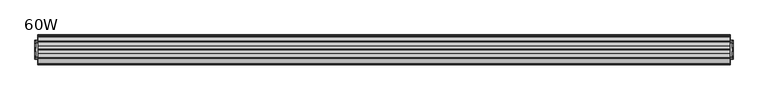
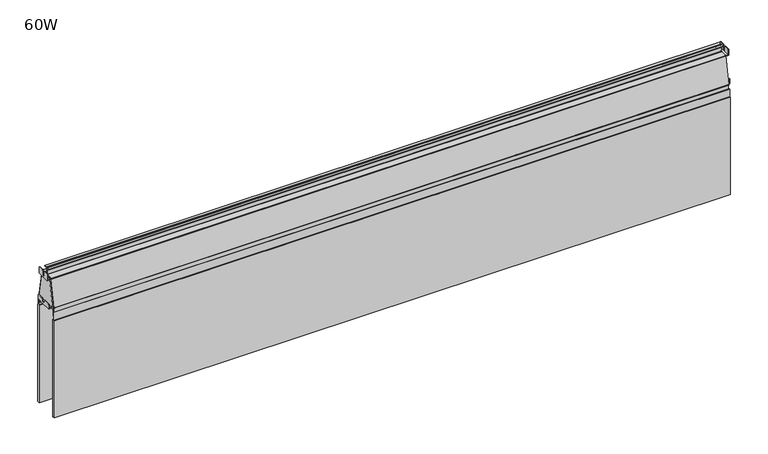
"""IFC4 building model written with IfcOpenShell, lengths in millimetres: furniture geometry, Steelcase Turnstone - Bivi - Accessories - High Sit Bracket with Modesty Panel : 60W."""

from ifc_helpers import new_model, si_unit, point, frame, frame_2d, origin, place, context, project, spatial, polyline, circle_curve, trimmed, segment, composite_curve, outline, extrude, source, transform, mapped, element, save
from ifc_brep_helpers import plane_surface, cylinder_surface, revolved_surface, advanced_brep


def furniture_60w_cce648a8(model_context):
    return source(origin(), model_context, "Body", "SolidModel", [
        extrude(outline(polyline([(1476.756, 62.4245382), (1476.756, 102.4290731), (1481.1753142, 102.4290731), (1481.1753142, 62.4245382), (1476.756, 62.4245382)])), frame((0.0, 0.0, 971.7621964), z_axis=(0.0, 0.0, 1.0), x_axis=(1.0, 0.0, 0.0)), (0.0, 0.0, 1.0), 2.2606178),
        extrude(outline(polyline([(1476.756, 67.9265279), (1476.756, 96.8235489), (1481.1753142, 96.8235489), (1481.1753142, 67.9265279), (1476.756, 67.9265279)])), frame((0.0, 0.0, 1033.6165755), z_axis=(0.0, 0.0, 1.0), x_axis=(1.0, 0.0, 0.0)), (0.0, 0.0, 1.0), 1.7477706),
        extrude(outline(composite_curve([segment(polyline([(67.9265279, 1033.6165755), (67.9265279, 1047.4581981)]), True, "CONTINUOUS"), segment(trimmed(circle_curve(frame_2d((68.8135699, 1047.4581981)), 0.887042), [point((67.9265279, 1047.4581981))], [point((68.8135699, 1048.3452401))], False, "CARTESIAN"), True, "CONTINUOUS"), segment(polyline([(68.8135699, 1048.3452401), (78.2610567, 1048.3452401)]), True, "CONTINUOUS"), segment(trimmed(circle_curve(frame_2d((78.2610567, 1047.1627838)), 1.1824563), [point((78.2610567, 1048.3452401))], [point((79.443513, 1047.1627838))], False, "CARTESIAN"), True, "CONTINUOUS"), segment(polyline([(79.443513, 1047.1627838), (79.443513, 1035.3644915), (85.4277852, 1035.3644915), (85.4277852, 1047.1882087)]), True, "CONTINUOUS"), segment(trimmed(circle_curve(frame_2d((86.5848166, 1047.1882087)), 1.1570313), [point((85.4277852, 1047.1882087))], [point((86.5848166, 1048.3452401))], False, "CARTESIAN"), True, "CONTINUOUS"), segment(polyline([(86.5848166, 1048.3452401), (95.8530462, 1048.3452401)]), True, "CONTINUOUS"), segment(trimmed(circle_curve(frame_2d((95.8530462, 1047.2712029)), 1.0740372), [point((95.8530462, 1048.3452401))], [point((96.9270833, 1047.2712029))], False, "CARTESIAN"), True, "CONTINUOUS"), segment(polyline([(96.9270833, 1047.2712029), (96.9270833, 1033.6165755), (67.9265279, 1033.6165755)]), True, "CONTINUOUS")], self_intersect=False)), frame((1481.1753142, 0.0, 0.0), z_axis=(1.0, 0.0, 0.0), x_axis=(0.0, 1.0, 0.0)), (0.0, 0.0, 1.0), 1.4999084),
        extrude(outline(composite_curve([segment(trimmed(circle_curve(frame_2d((76.0547241, 979.9142284)), 1.9270039), [point((76.0547241, 981.8412323))], [point((77.9817281, 979.9142284))], False, "CARTESIAN"), True, "CONTINUOUS"), segment(polyline([(77.9817281, 979.9142284), (77.9817281, 974.7655741), (86.8718831, 974.7655741), (86.8718831, 980.0617922)]), True, "CONTINUOUS"), segment(trimmed(circle_curve(frame_2d((88.6513232, 980.0617922)), 1.7794401), [point((86.8718831, 980.0617922))], [point((88.6513232, 981.8412323))], False, "CARTESIAN"), True, "CONTINUOUS"), segment(polyline([(88.6513232, 981.8412323), (100.3925404, 981.8412323)]), True, "CONTINUOUS"), segment(trimmed(circle_curve(frame_2d((100.3925404, 979.8046996)), 2.0365327), [point((100.3925404, 981.8412323))], [point((102.4290731, 979.8046996))], False, "CARTESIAN"), True, "CONTINUOUS"), segment(polyline([(102.4290731, 979.8046996), (102.4290731, 971.7621964), (82.4398102, 971.7621964), (62.4245382, 971.7621964), (62.4245382, 980.0326664)]), True, "CONTINUOUS"), segment(trimmed(circle_curve(frame_2d((64.233104, 980.0326664)), 1.8085659), [point((62.4245382, 980.0326664))], [point((64.233104, 981.8412323))], False, "CARTESIAN"), True, "CONTINUOUS"), segment(polyline([(64.233104, 981.8412323), (76.0547241, 981.8412323)]), True, "CONTINUOUS")], self_intersect=False)), frame((1481.1753142, 0.0, 0.0), z_axis=(1.0, 0.0, 0.0), x_axis=(0.0, 1.0, 0.0)), (0.0, 0.0, 1.0), 1.4999084),
        extrude(outline(polyline([(0.0, 62.4245382), (-4.4193142, 62.4245382), (-4.4193142, 102.4290731), (0.0, 102.4290731), (0.0, 62.4245382)])), frame((0.0, 0.0, 971.7621964), z_axis=(0.0, 0.0, 1.0), x_axis=(1.0, 0.0, 0.0)), (0.0, 0.0, 1.0), 2.2606178),
        extrude(outline(polyline([(0.0, 67.9265279), (-4.4193142, 67.9265279), (-4.4193142, 96.8235489), (0.0, 96.8235489), (0.0, 67.9265279)])), frame((0.0, 0.0, 1033.6165755), z_axis=(0.0, 0.0, 1.0), x_axis=(1.0, 0.0, 0.0)), (0.0, 0.0, 1.0), 1.7477706),
        extrude(outline(composite_curve([segment(polyline([(67.9265279, 1033.6165755), (67.9265279, 1047.4581981)]), True, "CONTINUOUS"), segment(trimmed(circle_curve(frame_2d((68.8135699, 1047.4581981)), 0.887042), [point((67.9265279, 1047.4581981))], [point((68.8135699, 1048.3452401))], False, "CARTESIAN"), True, "CONTINUOUS"), segment(polyline([(68.8135699, 1048.3452401), (78.2610567, 1048.3452401)]), True, "CONTINUOUS"), segment(trimmed(circle_curve(frame_2d((78.2610567, 1047.1627838)), 1.1824563), [point((78.2610567, 1048.3452401))], [point((79.443513, 1047.1627838))], False, "CARTESIAN"), True, "CONTINUOUS"), segment(polyline([(79.443513, 1047.1627838), (79.443513, 1035.3644915), (85.4277852, 1035.3644915), (85.4277852, 1047.1882087)]), True, "CONTINUOUS"), segment(trimmed(circle_curve(frame_2d((86.5848166, 1047.1882087)), 1.1570313), [point((85.4277852, 1047.1882087))], [point((86.5848166, 1048.3452401))], False, "CARTESIAN"), True, "CONTINUOUS"), segment(polyline([(86.5848166, 1048.3452401), (95.8530462, 1048.3452401)]), True, "CONTINUOUS"), segment(trimmed(circle_curve(frame_2d((95.8530462, 1047.2712029)), 1.0740372), [point((95.8530462, 1048.3452401))], [point((96.9270833, 1047.2712029))], False, "CARTESIAN"), True, "CONTINUOUS"), segment(polyline([(96.9270833, 1047.2712029), (96.9270833, 1033.6165755), (67.9265279, 1033.6165755)]), True, "CONTINUOUS")], self_intersect=False)), frame((-5.9192227, 0.0, 0.0), z_axis=(1.0, 0.0, 0.0), x_axis=(0.0, 1.0, 0.0)), (0.0, 0.0, 1.0), 1.4999084),
        extrude(outline(composite_curve([segment(trimmed(circle_curve(frame_2d((76.0547241, 979.9142284)), 1.9270039), [point((76.0547241, 981.8412323))], [point((77.9817281, 979.9142284))], False, "CARTESIAN"), True, "CONTINUOUS"), segment(polyline([(77.9817281, 979.9142284), (77.9817281, 974.7655741), (86.8718831, 974.7655741), (86.8718831, 980.0617922)]), True, "CONTINUOUS"), segment(trimmed(circle_curve(frame_2d((88.6513232, 980.0617922)), 1.7794401), [point((86.8718831, 980.0617922))], [point((88.6513232, 981.8412323))], False, "CARTESIAN"), True, "CONTINUOUS"), segment(polyline([(88.6513232, 981.8412323), (100.3925404, 981.8412323)]), True, "CONTINUOUS"), segment(trimmed(circle_curve(frame_2d((100.3925404, 979.8046996)), 2.0365327), [point((100.3925404, 981.8412323))], [point((102.4290731, 979.8046996))], False, "CARTESIAN"), True, "CONTINUOUS"), segment(polyline([(102.4290731, 979.8046996), (102.4290731, 971.7621964), (82.4398102, 971.7621964), (62.4245382, 971.7621964), (62.4245382, 980.0326664)]), True, "CONTINUOUS"), segment(trimmed(circle_curve(frame_2d((64.233104, 980.0326664)), 1.8085659), [point((62.4245382, 980.0326664))], [point((64.233104, 981.8412323))], False, "CARTESIAN"), True, "CONTINUOUS"), segment(polyline([(64.233104, 981.8412323), (76.0547241, 981.8412323)]), True, "CONTINUOUS")], self_intersect=False)), frame((-5.9192227, 0.0, 0.0), z_axis=(1.0, 0.0, 0.0), x_axis=(0.0, 1.0, 0.0)), (0.0, 0.0, 1.0), 1.4999084),
        extrude(outline(polyline([(56.9970023, 971.7621964), (68.2124562, 1035.3644915), (96.5348092, 1035.3644915), (107.8605404, 971.7621964), (56.9970023, 971.7621964)])), frame((1475.1043308, 0.0, 0.0), z_axis=(1.0, 0.0, 0.0), x_axis=(0.0, 1.0, 0.0)), (0.0, 0.0, 1.0), 1.6516692),
        extrude(outline(polyline([(56.9970023, 971.7621964), (68.2124305, 1035.3643461), (96.5348351, 1035.3643461), (107.8605404, 971.7621964), (56.9970023, 971.7621964)])), frame((0.0, 0.0, 0.0), z_axis=(1.0, 0.0, 0.0), x_axis=(0.0, 1.0, 0.0)), (0.0, 0.0, 1.0), 1.6516692),
        advanced_brep(
        [(1475.1043308, 80.9976272, 1037.2195381), (1475.1043308, 65.8460351, 1037.2195381), (1475.1043308, 64.5958542, 1036.1705117), (1475.1043308, 54.1639548, 977.0082706), (1475.1043308, 55.7575032, 975.5715007), (1475.1043308, 55.7575032, 956.4729406), (1475.1043308, 57.2806661, 956.4729406), (1475.1043308, 57.2806661, 975.5229406), (1475.1043308, 107.5729451, 975.5229406), (1475.1043308, 107.5729451, 956.4729406), (1475.1043308, 109.096108, 956.4729406), (1475.1043308, 109.096108, 975.5931057), (1475.1043308, 110.7579884, 977.0082706), (1475.1043308, 100.326089, 1036.1705117), (1475.1043308, 99.0759081, 1037.2195381), (1475.1043308, 83.924316, 1037.2195381), (1475.1043308, 83.3977957, 1037.7460584), (1475.1043308, 83.3977957, 1051.4672481), (1475.1043308, 83.9075425, 1051.9769949), (1475.1043308, 90.0377005, 1051.9769949), (1475.1043308, 90.0377005, 1052.8659668), (1475.1043308, 83.7221189, 1052.8659668), (1475.1043308, 82.5014645, 1051.6453124), (1475.1043308, 81.2494337, 1052.8659668), (1475.1043308, 74.8842427, 1052.8659668), (1475.1043308, 74.8842427, 1051.9769949), (1475.1043308, 81.0144007, 1051.9769949), (1475.1043308, 81.5241475, 1051.4672481), (1475.1043308, 81.5241475, 1037.7460584), (1475.1043308, 66.0050637, 1036.3263319), (1475.1043308, 81.2971318, 1036.3263319), (1475.1043308, 82.4700881, 1037.4992882), (1475.1043308, 83.6744208, 1036.3263319), (1475.1043308, 98.9168795, 1036.3263319), (1475.1043308, 99.4743251, 1035.8585795), (1475.1043308, 109.857677, 976.9716646), (1475.1043308, 109.38866, 976.4127119), (1475.1043308, 55.5332832, 976.4127119), (1475.1043308, 55.0642662, 976.9716646), (1475.1043308, 65.4476181, 1035.8585795), (1.6516692, 80.9976272, 1037.2195381), (1.6516692, 81.5241475, 1037.7460584), (1.6516692, 81.5241475, 1051.4672481), (1.6516692, 81.0144007, 1051.9769949), (1.6516692, 74.8842427, 1051.9769949), (1.6516692, 74.8842427, 1052.8659668), (1.6516692, 81.2494337, 1052.8659668), (1.6516692, 82.4700881, 1051.6453124), (1.6516692, 83.7221189, 1052.8659668), (1.6516692, 90.0377005, 1052.8659668), (1.6516692, 90.0377005, 1051.9769949), (1.6516692, 83.9075425, 1051.9769949), (1.6516692, 83.3977957, 1051.4672481), (1.6516692, 83.3977957, 1037.7460584), (1.6516692, 83.924316, 1037.2195381), (1.6516692, 99.0759081, 1037.2195381), (1.6516692, 100.326089, 1036.1705117), (1.6516692, 110.7579884, 977.0082706), (1.6516692, 109.096108, 975.5931057), (1.6516692, 109.096108, 956.4729406), (1.6516692, 107.5729451, 956.4729406), (1.6516692, 107.5729451, 975.5229406), (1.6516692, 57.2806661, 975.5229406), (1.6516692, 57.2806661, 956.4729406), (1.6516692, 55.7575032, 956.4729406), (1.6516692, 55.7575032, 975.5715007), (1.6516692, 54.1639548, 977.0082706), (1.6516692, 64.5958542, 1036.1705117), (1.6516692, 65.8460351, 1037.2195381), (1.6516692, 66.0050637, 1036.3263319), (1.6516692, 65.4476181, 1035.8585795), (1.6516692, 55.0642662, 976.9716646), (1.6516692, 55.5332832, 976.4127119), (1.6516692, 109.38866, 976.4127119), (1.6516692, 109.857677, 976.9716646), (1.6516692, 99.4743251, 1035.8585795), (1.6516692, 98.9168795, 1036.3263319), (1.6516692, 83.6744208, 1036.3263319), (1.6516692, 82.5014645, 1037.4992882), (1.6516692, 81.2971318, 1036.3263319)],
        [
            (0, 1),
            (1, 2, circle_curve(frame((1475.1043308, 65.8460351, 1035.9500711), z_axis=(1.0, 0.0, 0.0), x_axis=(0.0, -1.0, 0.0)), 1.269467)),
            (2, 3),
            (3, 4, circle_curve(frame((1475.1043308, 55.4102946, 976.7885072), z_axis=(1.0, 0.0, 0.0), x_axis=(0.0, -1.0, 0.0)), 1.2655666)),
            (4, 5),
            (5, 6),
            (6, 7),
            (7, 8),
            (8, 9),
            (9, 10),
            (10, 11),
            (11, 12, circle_curve(frame((1475.1043308, 109.5116486, 976.7885072), z_axis=(1.0, 0.0, 0.0), x_axis=(0.0, -1.0, 0.0)), 1.2655666)),
            (12, 13),
            (13, 14, circle_curve(frame((1475.1043308, 99.0759081, 1035.9500711), z_axis=(1.0, 0.0, 0.0), x_axis=(0.0, -1.0, 0.0)), 1.269467)),
            (14, 15),
            (15, 16, circle_curve(frame((1475.1043308, 83.924316, 1037.7460584), z_axis=(-1.0, 0.0, 0.0), x_axis=(0.0, -1.0, 0.0)), 0.5265203)),
            (16, 17),
            (17, 18, circle_curve(frame((1475.1043308, 83.9075425, 1051.4672481), z_axis=(-1.0, 0.0, 0.0), x_axis=(0.0, -1.0, 0.0)), 0.5097468)),
            (18, 19),
            (19, 20),
            (20, 21),
            (21, 22, circle_curve(frame((1475.1043308, 83.7221189, 1051.6453124), z_axis=(1.0, 0.0, 0.0), x_axis=(0.0, -1.0, 0.0)), 1.2206544)),
            (22, 23, circle_curve(frame((1475.1043308, 81.2494337, 1051.6453124), z_axis=(1.0, 0.0, 0.0), x_axis=(0.0, -1.0, 0.0)), 1.2206544)),
            (23, 24),
            (24, 25),
            (25, 26),
            (26, 27, circle_curve(frame((1475.1043308, 81.0144007, 1051.4672481), z_axis=(-1.0, 0.0, 0.0), x_axis=(0.0, -1.0, 0.0)), 0.5097468)),
            (27, 28),
            (28, 0, circle_curve(frame((1475.1043308, 80.9976272, 1037.7460584), z_axis=(-1.0, 0.0, 0.0), x_axis=(0.0, -1.0, 0.0)), 0.5265203)),
            (29, 30),
            (30, 31, circle_curve(frame((1475.1043308, 81.2971318, 1037.4992882), z_axis=(1.0, 0.0, 0.0), x_axis=(0.0, -1.0, 0.0)), 1.1729562)),
            (31, 32, circle_curve(frame((1475.1043308, 83.6744208, 1037.4992882), z_axis=(1.0, 0.0, 0.0), x_axis=(0.0, -1.0, 0.0)), 1.1729562)),
            (32, 33),
            (33, 34, circle_curve(frame((1475.1043308, 98.9168795, 1035.7602868), z_axis=(-1.0, 0.0, 0.0), x_axis=(0.0, -1.0, 0.0)), 0.5660451)),
            (34, 35),
            (35, 36, circle_curve(frame((1475.1043308, 109.38866, 976.8889643), z_axis=(-1.0, 0.0, 0.0), x_axis=(0.0, -1.0, 0.0)), 0.4762524)),
            (36, 37),
            (37, 38, circle_curve(frame((1475.1043308, 55.5332832, 976.8889643), z_axis=(-1.0, 0.0, 0.0), x_axis=(0.0, -1.0, 0.0)), 0.4762524)),
            (38, 39),
            (39, 29, circle_curve(frame((1475.1043308, 66.0050637, 1035.7602868), z_axis=(-1.0, 0.0, 0.0), x_axis=(0.0, -1.0, 0.0)), 0.5660451)),
            (40, 41, circle_curve(frame((1.6516692, 80.9976272, 1037.7460584), z_axis=(1.0, 0.0, 0.0), x_axis=(0.0, -1.0, 0.0)), 0.5265203)),
            (41, 42),
            (42, 43, circle_curve(frame((1.6516692, 81.0144007, 1051.4672481), z_axis=(1.0, 0.0, 0.0), x_axis=(0.0, -1.0, 0.0)), 0.5097468)),
            (43, 44),
            (44, 45),
            (45, 46),
            (46, 47, circle_curve(frame((1.6516692, 81.2494337, 1051.6453124), z_axis=(-1.0, 0.0, 0.0), x_axis=(0.0, -1.0, 0.0)), 1.2206544)),
            (47, 48, circle_curve(frame((1.6516692, 83.7221189, 1051.6453124), z_axis=(-1.0, 0.0, 0.0), x_axis=(0.0, -1.0, 0.0)), 1.2206544)),
            (48, 49),
            (49, 50),
            (50, 51),
            (51, 52, circle_curve(frame((1.6516692, 83.9075425, 1051.4672481), z_axis=(1.0, 0.0, 0.0), x_axis=(0.0, -1.0, 0.0)), 0.5097468)),
            (52, 53),
            (53, 54, circle_curve(frame((1.6516692, 83.924316, 1037.7460584), z_axis=(1.0, 0.0, 0.0), x_axis=(0.0, -1.0, 0.0)), 0.5265203)),
            (54, 55),
            (55, 56, circle_curve(frame((1.6516692, 99.0759081, 1035.9500711), z_axis=(-1.0, 0.0, 0.0), x_axis=(0.0, -1.0, 0.0)), 1.269467)),
            (56, 57),
            (57, 58, circle_curve(frame((1.6516692, 109.5116486, 976.7885072), z_axis=(-1.0, 0.0, 0.0), x_axis=(0.0, -1.0, 0.0)), 1.2655666)),
            (58, 59),
            (59, 60),
            (60, 61),
            (61, 62),
            (62, 63),
            (63, 64),
            (64, 65),
            (65, 66, circle_curve(frame((1.6516692, 55.4102946, 976.7885072), z_axis=(-1.0, 0.0, 0.0), x_axis=(0.0, -1.0, 0.0)), 1.2655666)),
            (66, 67),
            (67, 68, circle_curve(frame((1.6516692, 65.8460351, 1035.9500711), z_axis=(-1.0, 0.0, 0.0), x_axis=(0.0, -1.0, 0.0)), 1.269467)),
            (68, 40),
            (69, 70, circle_curve(frame((1.6516692, 66.0050637, 1035.7602868), z_axis=(1.0, 0.0, 0.0), x_axis=(0.0, -1.0, 0.0)), 0.5660451)),
            (70, 71),
            (71, 72, circle_curve(frame((1.6516692, 55.5332832, 976.8889643), z_axis=(1.0, 0.0, 0.0), x_axis=(0.0, -1.0, 0.0)), 0.4762524)),
            (72, 73),
            (73, 74, circle_curve(frame((1.6516692, 109.38866, 976.8889643), z_axis=(1.0, 0.0, 0.0), x_axis=(0.0, -1.0, 0.0)), 0.4762524)),
            (74, 75),
            (75, 76, circle_curve(frame((1.6516692, 98.9168795, 1035.7602868), z_axis=(1.0, 0.0, 0.0), x_axis=(0.0, -1.0, 0.0)), 0.5660451)),
            (76, 77),
            (77, 78, circle_curve(frame((1.6516692, 83.6744208, 1037.4992882), z_axis=(-1.0, 0.0, 0.0), x_axis=(0.0, -1.0, 0.0)), 1.1729562)),
            (78, 79, circle_curve(frame((1.6516692, 81.2971318, 1037.4992882), z_axis=(-1.0, 0.0, 0.0), x_axis=(0.0, -1.0, 0.0)), 1.1729562)),
            (79, 69),
            (28, 41),
            (40, 0),
            (27, 42),
            (26, 43),
            (25, 44),
            (24, 45),
            (23, 46),
            (22, 47),
            (21, 48),
            (20, 49),
            (19, 50),
            (18, 51),
            (17, 52),
            (16, 53),
            (15, 54),
            (14, 55),
            (13, 56),
            (12, 57),
            (11, 58),
            (10, 59),
            (9, 60),
            (8, 61),
            (7, 62),
            (6, 63),
            (5, 64),
            (4, 65),
            (3, 66),
            (2, 67),
            (1, 68),
            (39, 70),
            (69, 29),
            (38, 71),
            (37, 72),
            (36, 73),
            (35, 74),
            (34, 75),
            (33, 76),
            (32, 77),
            (31, 78),
            (30, 79),
        ],
        [
            plane_surface(frame((1475.1043308, 80.4711069, 1037.7460584), z_axis=(1.0, 0.0, 0.0), x_axis=(0.0, 0.0, -1.0))),
            plane_surface(frame((1.6516692, 80.4711069, 1037.7460584), z_axis=(-1.0, 0.0, 0.0), x_axis=(0.0, 0.0, 1.0))),
            revolved_surface(polyline([(1.6516692, 80.4711069, 1037.7460584), (1475.1043308, 80.4711069, 1037.7460584)]), (1.6516692, 80.9976272, 1037.7460584), (-1.0, 0.0, 0.0)),
            plane_surface(frame((1475.1043308, 81.5241475, 1037.7460584), z_axis=(0.0, -1.0, 0.0), x_axis=(-1.0, 0.0, 0.0))),
            revolved_surface(polyline([(1.6516692, 80.5046539, 1051.4672481), (1475.1043308, 80.5046539, 1051.4672481)]), (1.6516692, 81.0144007, 1051.4672481), (-1.0, 0.0, 0.0)),
            plane_surface(frame((1475.1043308, 81.0144007, 1051.9769949), z_axis=(0.0, 0.0, -1.0), x_axis=(-1.0, 0.0, 0.0))),
            plane_surface(frame((1475.1043308, 74.8842427, 1051.9769949), z_axis=(0.0, -1.0, 0.0), x_axis=(-1.0, 0.0, 0.0))),
            plane_surface(frame((1475.1043308, 74.8842427, 1052.8659668), z_axis=(0.0, 0.0, 1.0), x_axis=(-1.0, 0.0, 0.0))),
            cylinder_surface(frame((1.6516692, 81.2494337, 1051.6453124), z_axis=(1.0, 0.0, 0.0), x_axis=(0.0, -1.0, 0.0)), 1.2206544),
            cylinder_surface(frame((1.6516692, 83.7221189, 1051.6453124), z_axis=(1.0, 0.0, 0.0), x_axis=(0.0, -1.0, 0.0)), 1.2206544),
            plane_surface(frame((1475.1043308, 83.7221189, 1052.8659668), z_axis=(0.0, 0.0, 1.0), x_axis=(-1.0, 0.0, 0.0))),
            plane_surface(frame((1475.1043308, 90.0377005, 1052.8659668), z_axis=(0.0, 1.0, 0.0), x_axis=(-1.0, 0.0, 0.0))),
            plane_surface(frame((1475.1043308, 90.0377005, 1051.9769949), z_axis=(0.0, 0.0, -1.0), x_axis=(-1.0, 0.0, 0.0))),
            revolved_surface(polyline([(1.6516692, 83.3977957, 1051.4672481), (1475.1043308, 83.3977957, 1051.4672481)]), (1.6516692, 83.9075425, 1051.4672481), (-1.0, 0.0, 0.0)),
            plane_surface(frame((1475.1043308, 83.3977957, 1051.4672481), z_axis=(0.0, 1.0, 0.0), x_axis=(-1.0, 0.0, 0.0))),
            revolved_surface(polyline([(1.6516692, 83.3977957, 1037.7460584), (1475.1043308, 83.3977957, 1037.7460584)]), (1.6516692, 83.924316, 1037.7460584), (-1.0, 0.0, 0.0)),
            plane_surface(frame((1475.1043308, 83.924316, 1037.2195381), z_axis=(0.0, 0.0, 1.0), x_axis=(-1.0, 0.0, 0.0))),
            cylinder_surface(frame((1.6516692, 99.0759081, 1035.9500711), z_axis=(1.0, 0.0, 0.0), x_axis=(0.0, -1.0, 0.0)), 1.269467),
            plane_surface(frame((1475.1043308, 100.326089, 1036.1705117), z_axis=(0.0, 0.9848077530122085, 0.17364817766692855), x_axis=(-1.0, 0.0, 0.0))),
            cylinder_surface(frame((1.6516692, 109.5116486, 976.7885072), z_axis=(1.0, 0.0, 0.0), x_axis=(0.0, -1.0, 0.0)), 1.2655666),
            plane_surface(frame((1475.1043308, 109.096108, 975.5931057), z_axis=(0.0, 1.0, 0.0), x_axis=(-1.0, 0.0, 0.0))),
            plane_surface(frame((1475.1043308, 109.096108, 956.4729406), z_axis=(0.0, 0.0, -1.0), x_axis=(-1.0, 0.0, 0.0))),
            plane_surface(frame((1475.1043308, 107.5729451, 956.4729406), z_axis=(0.0, -1.0, 0.0), x_axis=(-1.0, 0.0, 0.0))),
            plane_surface(frame((1475.1043308, 107.5729451, 975.5229406), z_axis=(0.0, 0.0, -1.0), x_axis=(-1.0, 0.0, 0.0))),
            plane_surface(frame((1475.1043308, 57.2806661, 975.5229406), z_axis=(0.0, 1.0, 0.0), x_axis=(-1.0, 0.0, 0.0))),
            plane_surface(frame((1475.1043308, 57.2806661, 956.4729406), z_axis=(0.0, 0.0, -1.0), x_axis=(-1.0, 0.0, 0.0))),
            plane_surface(frame((1475.1043308, 55.7575032, 956.4729406), z_axis=(0.0, -1.0, 0.0), x_axis=(-1.0, 0.0, 0.0))),
            cylinder_surface(frame((1.6516692, 55.4102946, 976.7885072), z_axis=(1.0, 0.0, 0.0), x_axis=(0.0, -1.0, 0.0)), 1.2655666),
            plane_surface(frame((1475.1043308, 54.1639548, 977.0082706), z_axis=(0.0, -0.9848077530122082, 0.17364817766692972), x_axis=(-1.0, 0.0, 0.0))),
            cylinder_surface(frame((1.6516692, 65.8460351, 1035.9500711), z_axis=(1.0, 0.0, 0.0), x_axis=(0.0, -1.0, 0.0)), 1.269467),
            plane_surface(frame((1475.1043308, 65.8460351, 1037.2195381), z_axis=(0.0, 0.0, 1.0), x_axis=(-1.0, 0.0, 0.0))),
            revolved_surface(polyline([(1.6516692, 65.4390186, 1035.7602868), (1475.1043308, 65.4390186, 1035.7602868)]), (0.0, 66.0050637, 1035.7602868), (-1.0, 0.0, 0.0)),
            plane_surface(frame((1475.1043308, 65.4476181, 1035.8585795), z_axis=(0.0, 0.9848077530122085, -0.17364817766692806), x_axis=(-1.0, 0.0, 0.0))),
            revolved_surface(polyline([(1.6516692, 55.0570308, 976.8889643), (1475.1043308, 55.0570308, 976.8889643)]), (0.0, 55.5332832, 976.8889643), (-1.0, 0.0, 0.0)),
            plane_surface(frame((1475.1043308, 55.5332832, 976.4127119), z_axis=(0.0, 0.0, 1.0), x_axis=(-1.0, 0.0, 0.0))),
            revolved_surface(polyline([(1.6516692, 108.9124076, 976.8889643), (1475.1043308, 108.9124076, 976.8889643)]), (0.0, 109.38866, 976.8889643), (-1.0, 0.0, 0.0)),
            plane_surface(frame((1475.1043308, 109.857677, 976.9716646), z_axis=(0.0, -0.9848077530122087, -0.17364817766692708), x_axis=(-1.0, 0.0, 0.0))),
            revolved_surface(polyline([(1.6516692, 98.3508344, 1035.7602868), (1475.1043308, 98.3508344, 1035.7602868)]), (0.0, 98.9168795, 1035.7602868), (-1.0, 0.0, 0.0)),
            plane_surface(frame((1475.1043308, 98.9168795, 1036.3263319), z_axis=(0.0, 0.0, -1.0), x_axis=(-1.0, 0.0, 0.0))),
            cylinder_surface(frame((0.0, 83.6744208, 1037.4992882), z_axis=(1.0, 0.0, 0.0), x_axis=(0.0, -1.0, 0.0)), 1.1729562),
            cylinder_surface(frame((0.0, 81.2971318, 1037.4992882), z_axis=(1.0, 0.0, 0.0), x_axis=(0.0, -1.0, 0.0)), 1.1729562),
            plane_surface(frame((1475.1043308, 81.2971318, 1036.3263319), z_axis=(0.0, 0.0, -1.0), x_axis=(-1.0, 0.0, 0.0))),
        ],
        [
            (0, [[1, 2, 3, 4, 5, 6, 7, 8, 9, 10, 11, 12, 13, 14, 15, 16, 17, 18, 19, 20, 21, 22, 23, 24, 25, 26, 27, 28, 29], [30, 31, 32, 33, 34, 35, 36, 37, 38, 39, 40]]),
            (1, [[41, 42, 43, 44, 45, 46, 47, 48, 49, 50, 51, 52, 53, 54, 55, 56, 57, 58, 59, 60, 61, 62, 63, 64, 65, 66, 67, 68, 69], [70, 71, 72, 73, 74, 75, 76, 77, 78, 79, 80]]),
            (2, [[81, -41, 82, -29]]),
            (3, [[83, -42, -81, -28]]),
            (4, [[84, -43, -83, -27]]),
            (5, [[85, -44, -84, -26]]),
            (6, [[86, -45, -85, -25]]),
            (7, [[87, -46, -86, -24]]),
            (8, [[88, -47, -87, -23]]),
            (9, [[89, -48, -88, -22]]),
            (10, [[90, -49, -89, -21]]),
            (11, [[91, -50, -90, -20]]),
            (12, [[92, -51, -91, -19]]),
            (13, [[93, -52, -92, -18]]),
            (14, [[94, -53, -93, -17]]),
            (15, [[95, -54, -94, -16]]),
            (16, [[96, -55, -95, -15]]),
            (17, [[97, -56, -96, -14]]),
            (18, [[98, -57, -97, -13]]),
            (19, [[99, -58, -98, -12]]),
            (20, [[100, -59, -99, -11]]),
            (21, [[101, -60, -100, -10]]),
            (22, [[102, -61, -101, -9]]),
            (23, [[103, -62, -102, -8]]),
            (24, [[104, -63, -103, -7]]),
            (25, [[105, -64, -104, -6]]),
            (26, [[106, -65, -105, -5]]),
            (27, [[107, -66, -106, -4]]),
            (28, [[108, -67, -107, -3]]),
            (29, [[109, -68, -108, -2]]),
            (30, [[-82, -69, -109, -1]]),
            (31, [[110, -70, 111, -40]]),
            (32, [[112, -71, -110, -39]]),
            (33, [[113, -72, -112, -38]]),
            (34, [[114, -73, -113, -37]]),
            (35, [[115, -74, -114, -36]]),
            (36, [[116, -75, -115, -35]]),
            (37, [[117, -76, -116, -34]]),
            (38, [[118, -77, -117, -33]]),
            (39, [[119, -78, -118, -32]]),
            (40, [[120, -79, -119, -31]]),
            (41, [[-111, -80, -120, -30]]),
        ],
    ),
        extrude(outline(polyline([(54.1343465, 967.1858042), (54.1343465, 949.6150017), (56.1923604, 949.6150017), (56.1923604, 724.5711073), (50.6089803, 724.5711073), (50.6089803, 949.6150017), (52.6693197, 949.6150017), (52.6693197, 967.1858042), (54.1343465, 967.1858042)])), frame((0.0, 0.0, 0.0), z_axis=(1.0, 0.0, 0.0), x_axis=(0.0, 1.0, 0.0)), (0.0, 0.0, 1.0), 1476.756),
        extrude(outline(polyline([(110.7215902, 967.1858042), (112.186617, 967.1858042), (112.186617, 949.6150017), (114.2469564, 949.6150017), (114.2469564, 724.5711073), (108.6635762, 724.5711073), (108.6635762, 949.6150017), (110.7215902, 949.6150017), (110.7215902, 967.1858042)])), frame((0.0, 0.0, 0.0), z_axis=(1.0, 0.0, 0.0), x_axis=(0.0, 1.0, 0.0)), (0.0, 0.0, 1.0), 1476.756),
    ])


if __name__ == "__main__":
    model = new_model("IFC4")
    model_context = context("Model", 3, world=origin())
    ifc_project = project(units=[si_unit("LENGTHUNIT", "METRE", prefix="MILLI")], contexts=[model_context])
    site = spatial("IfcSite", under=ifc_project)
    building = spatial("IfcBuilding", under=site)
    placement = place(None, origin())
    furniture_60w_shape = furniture_60w_cce648a8(model_context)
    element("IfcFurniture", 1, ObjectType="Steelcase Turnstone - Bivi - Accessories - High Sit Bracket with Modesty Panel : 60W", at=placement, inside=building, context=model_context, shape_type="MappedRepresentation", body=[
        mapped(furniture_60w_shape, transform((0.0, 0.0, 0.0), x_axis=(1.0, 0.0, 0.0), y_axis=(0.0, 1.0, 0.0), z_axis=(0.0, 0.0, 1.0))),
    ])
    save(model, "model.ifc")
